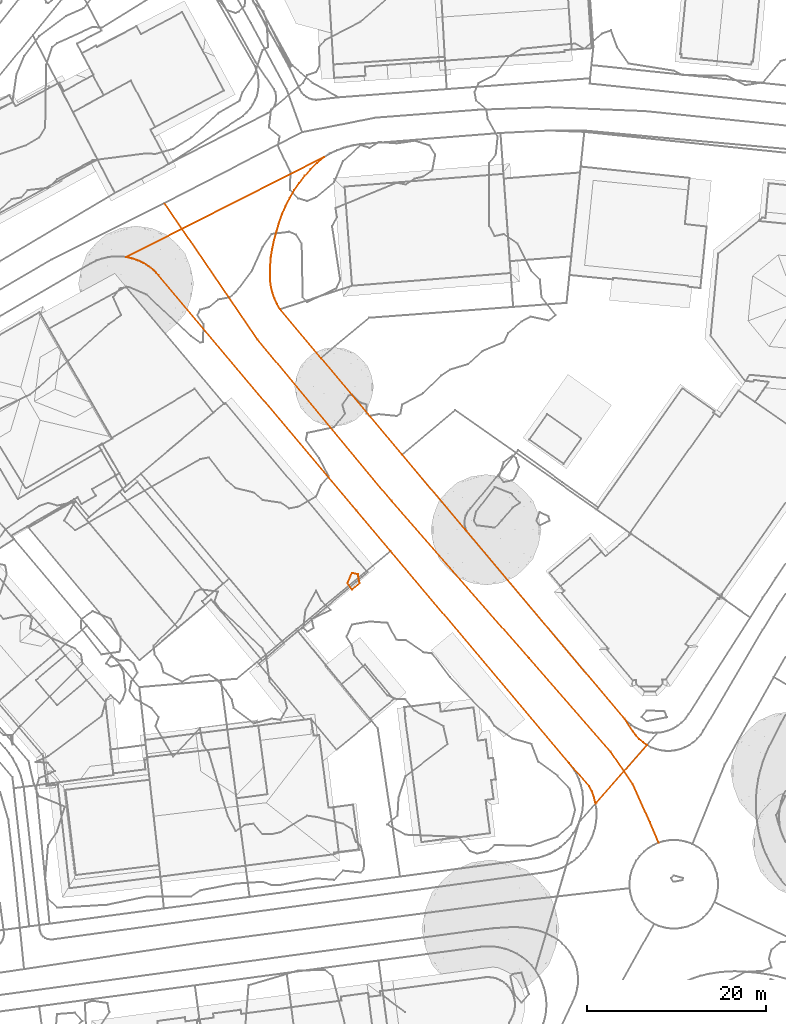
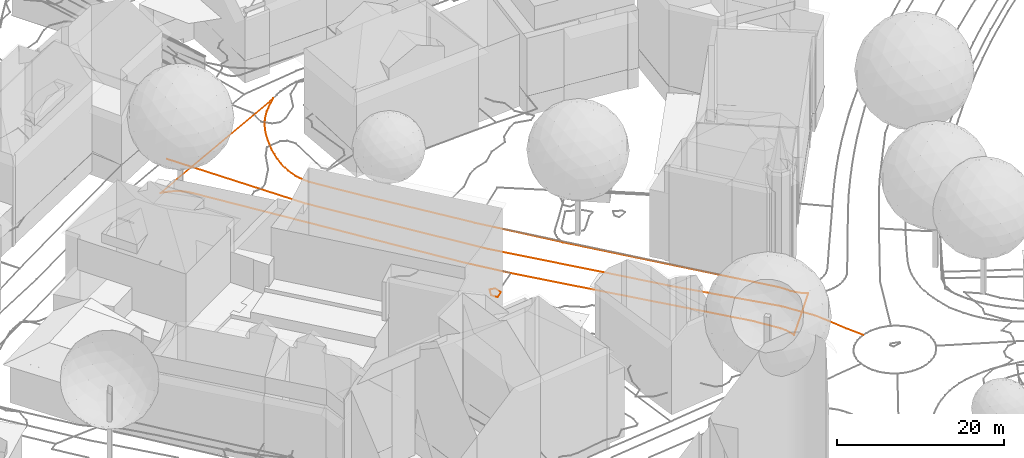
# Not in any storey, part 190 of 494: 3 proxies.
"""IFC2X3 model written with IfcOpenShell, lengths in metres."""

from ifc_helpers import new_model, entity, si_unit, frame, origin_with_axes, place, context, subcontext, project, element, save


model = new_model("IFC2X3")

# Units and contexts
model_context = context("Model", 3, precision=1e-05, world=origin_with_axes())
body_context = subcontext(model_context, "Body", "Model", "MODEL_VIEW")
ifc_project = project(units=[si_unit("AREAUNIT", "SQUARE_METRE"), si_unit("LENGTHUNIT", "METRE")], contexts=[model_context])

# Proxies
proxy_1_placement = place(None, frame((527.7037320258, 265.7307350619, 504.381), z_axis=(0.0, 0.0, 1.0), x_axis=(1.0, 0.0, 0.0)))
element("IfcBuildingElementProxy", 1, at=proxy_1_placement, Name="Road 92", ObjectType="NOTDEFINED", context=body_context, shape_type="GeometricCurveSet", body=[
    entity("IfcGeometricCurveSet", [entity("IfcPolyline", [entity("IfcCartesianPoint", [0.0, 0.0, 0.0]), entity("IfcCartesianPoint", [10.4270000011, -15.2719995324, -0.94]), entity("IfcCartesianPoint", [25.4039999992, -33.3339989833, -1.91]), entity("IfcCartesianPoint", [40.8229999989, -50.9549984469, -2.095]), entity("IfcCartesianPoint", [49.9279999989, -61.3809981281, -1.891]), entity("IfcCartesianPoint", [52.4239999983, -65.0519980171, -1.882]), entity("IfcCartesianPoint", [54.3330000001, -69.309997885, -1.88]), entity("IfcCartesianPoint", [55.3079999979, -71.6019978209, -1.778])])]),
])
proxy_2_placement = place(None, frame((523.4317320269, 259.6767160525, 504.5249917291), z_axis=(0.0, 0.0, 1.0), x_axis=(1.0, 0.0, 0.0)))
element("IfcBuildingElementProxy", 2, at=proxy_2_placement, Name="Roads Outline 89", ObjectType="NOTDEFINED", context=body_context, shape_type="GeometricCurveSet", body=[
    entity("IfcGeometricCurveSet", [entity("IfcPolyline", [entity("IfcCartesianPoint", [0.0, 0.0, 0.0]), entity("IfcCartesianPoint", [22.1179999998, 11.203, -0.6515167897]), entity("IfcCartesianPoint", [21.361, 10.5459999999, -0.6658509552]), entity("IfcCartesianPoint", [20.6469999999, 9.8419999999, -0.6511270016]), entity("IfcCartesianPoint", [19.9779999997, 9.095, -0.6090126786]), entity("IfcCartesianPoint", [19.358, 8.307, -0.570871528]), entity("IfcCartesianPoint", [18.7879999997, 7.4820000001, -0.5392725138]), entity("IfcCartesianPoint", [18.2779999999, 6.615, -0.5149267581]), entity("IfcCartesianPoint", [17.8229999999, 5.719, -0.5018936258]), entity("IfcCartesianPoint", [17.4249999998, 4.7949999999, -0.4821877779]), entity("IfcCartesianPoint", [17.0869999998, 3.848, -0.5051820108]), entity("IfcCartesianPoint", [16.8079999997, 2.882, -0.5375198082]), entity("IfcCartesianPoint", [16.5349999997, 1.909, -0.5634457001]), entity("IfcCartesianPoint", [16.3229999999, 0.9199999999, -0.5720384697]), entity("IfcCartesianPoint", [16.1749999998, -0.0800000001, -0.6168190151]), entity("IfcCartesianPoint", [16.0889999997, -1.088, -0.6563572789]), entity("IfcCartesianPoint", [16.068, -2.0989999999, -0.6575189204]), entity("IfcCartesianPoint", [16.1069999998, -2.7579999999, -0.6828954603]), entity("IfcCartesianPoint", [16.2089999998, -3.4099999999, -0.7217413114]), entity("IfcCartesianPoint", [16.3709999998, -4.05, -0.7685560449]), entity("IfcCartesianPoint", [16.5929999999, -4.672, -0.7778728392]), entity("IfcCartesianPoint", [16.8729999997, -5.27, -0.8043883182]), entity("IfcCartesianPoint", [17.2079999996, -5.8389999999, -0.8525496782]), entity("IfcCartesianPoint", [21.7879999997, -11.2790000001, -1.2425265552]), entity("IfcCartesianPoint", [30.8869999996, -22.1089999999, -1.7896613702]), entity("IfcCartesianPoint", [37.8999999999, -30.4410000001, -1.9515371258]), entity("IfcCartesianPoint", [38.1119999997, -30.693, -1.9707872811]), entity("IfcCartesianPoint", [55.7659999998, -51.669, -1.9685910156]), entity("IfcCartesianPoint", [56.7279999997, -53.0930000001, -2.0025377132]), entity("IfcCartesianPoint", [57.0419999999, -53.541, -2.0015957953]), entity("IfcCartesianPoint", [57.4069999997, -53.949, -1.9977248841]), entity("IfcCartesianPoint", [57.818, -54.311, -1.9719552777]), entity("IfcCartesianPoint", [58.2689999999, -54.621, -1.9645605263]), entity("IfcCartesianPoint", [52.611, -61.0520000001, -2.1006218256]), entity("IfcCartesianPoint", [52.523, -61.152, -2.0965584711]), entity("IfcCartesianPoint", [52.3589999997, -60.486, -2.0891359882]), entity("IfcCartesianPoint", [52.1259999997, -59.841, -2.0783195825]), entity("IfcCartesianPoint", [51.827, -59.2239999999, -2.0765361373]), entity("IfcCartesianPoint", [49.5659999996, -56.6200000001, -1.8202345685]), entity("IfcCartesianPoint", [29.588, -32.9000000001, -2.1602463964]), entity("IfcCartesianPoint", [25.7790000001, -28.3759999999, -2.0394732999]), entity("IfcCartesianPoint", [3.5899999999, -2.02, -0.1288324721]), entity("IfcCartesianPoint", [3.3229999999, -1.7280000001, -0.094078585]), entity("IfcCartesianPoint", [3.0379999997, -1.4550000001, -0.0572966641]), entity("IfcCartesianPoint", [2.5049999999, -1.0290000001, -0.0091753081]), entity("IfcCartesianPoint", [1.9269999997, -0.666, 0.0120438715]), entity("IfcCartesianPoint", [1.3109999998, -0.371, 0.0058179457]), entity("IfcCartesianPoint", [0.6659999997, -0.148, -0.0053742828]), entity("IfcCartesianPoint", [0.0, 0.0, 0.0])])]),
])
proxy_3_placement = place(None, frame((548.1896657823, 223.1707160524, 503.0), z_axis=(0.0, 0.0, 1.0), x_axis=(1.0, 0.0, 0.0)))
element("IfcBuildingElementProxy", 3, at=proxy_3_placement, Name="Contour Line 503.0 m", ObjectType="NOTDEFINED", context=body_context, shape_type="GeometricCurveSet", body=[
    entity("IfcGeometricCurveSet", [entity("IfcPolyline", [entity("IfcCartesianPoint", [1.3361407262, 0.0, 0.0]), entity("IfcCartesianPoint", [0.4880662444, -0.7255611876, 0.0]), entity("IfcCartesianPoint", [0.0, 0.0, 0.0]), entity("IfcCartesianPoint", [0.4880662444, 1.161716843, 0.0]), entity("IfcCartesianPoint", [1.1652383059, 1.0, 0.0]), entity("IfcCartesianPoint", [1.3361407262, 0.0, 0.0])])]),
])

save(model, "model.ifc")
